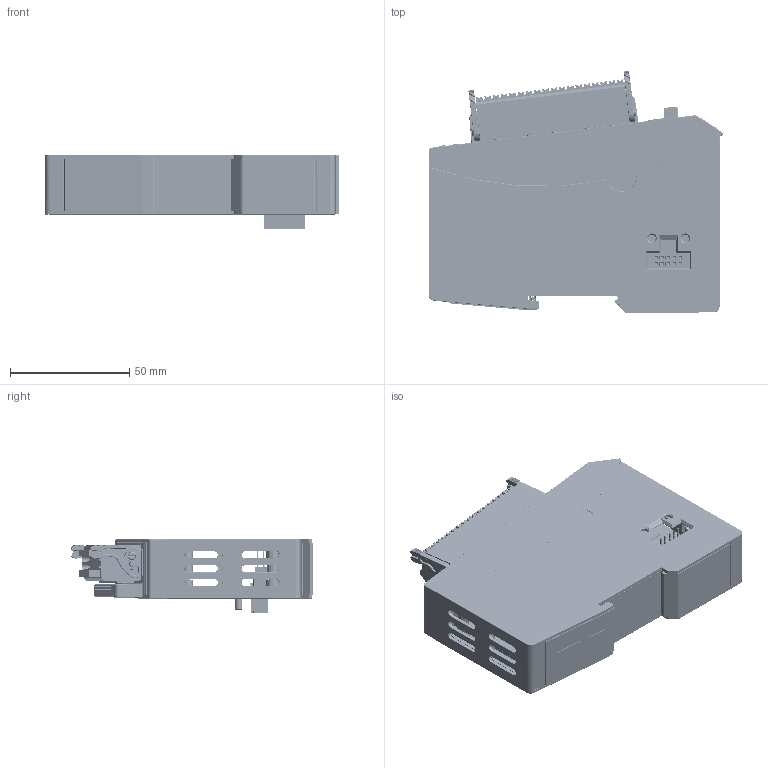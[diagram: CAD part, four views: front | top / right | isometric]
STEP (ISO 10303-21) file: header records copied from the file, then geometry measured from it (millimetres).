
FILE_DESCRIPTION(('CATIA V5 STEP Exchange'),'2;1');
FILE_NAME('Z:\DE\Automation\Data\Exchange\Dreiack\#694_Parker\3D-Daten 694\694_drive_control.stp','2014-05-09T08:56:57+00:00',('none'),('none'),'CATIA Version 5 Release 19 SP 9 (IN-10)','CATIA V5 STEP AP214','none');
FILE_SCHEMA(('AUTOMOTIVE_DESIGN { 1 0 10303 214 1 1 1 1 }'));
Products named in the file (1): KEB-IO_drive_control_069
Bounding box: 123.57 x 101.63 x 31.1 mm (x, y, z)
Volume: 88991.8 mm3; surface area: 115834.7 mm2
Topology: 2 solids, 110 shells, 10109 faces, 27617 edges, 17588 vertices
Faces by surface type: plane 6861, cylinder 2371, torus 369, cone 324, sphere 110, bspline 54, extrusion 16, revolution 4
Entity records: 319083 total; most frequent: CARTESIAN_POINT 78642, ORIENTED_EDGE 55008, DIRECTION 40339, EDGE_CURVE 27504, VECTOR 19931, LINE 19915, VERTEX_POINT 17588, AXIS2_PLACEMENT_3D 12764
